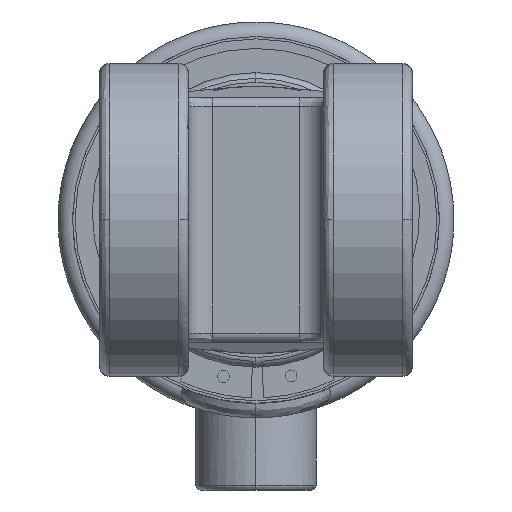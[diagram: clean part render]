
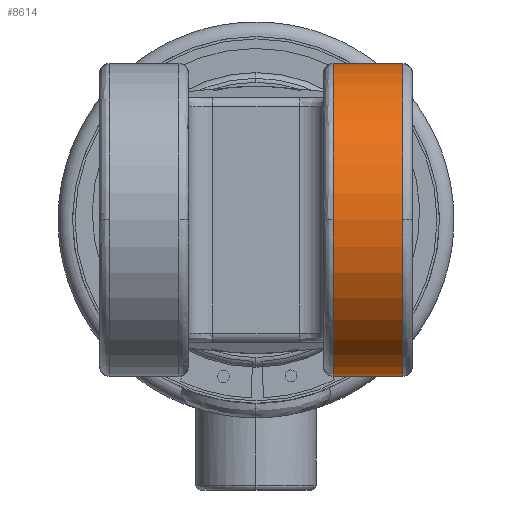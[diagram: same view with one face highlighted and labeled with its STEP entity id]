
A CAD part, left-side view. The second image highlights one B-rep face of the part: STEP entity #8614.
In plain terms, the highlighted cylindrical face has radius 32.5 mm (diameter 65 mm), a partial arc.
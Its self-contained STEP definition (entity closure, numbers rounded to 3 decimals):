
#268 = VECTOR ( 'NONE', #6964, 1000. ) ;
#978 = EDGE_LOOP ( 'NONE', ( #7352, #9136, #4256, #11193, #5971, #2052 ) ) ;
#1594 = CARTESIAN_POINT ( 'NONE',  ( 44.795, -30.5, -32.5 ) ) ;
#1852 = VERTEX_POINT ( 'NONE', #3364 ) ;
#1872 = EDGE_CURVE ( 'NONE', #5551, #2895, #5228, .T. ) ;
#2038 = EDGE_CURVE ( 'NONE', #5551, #3725, #6903, .T. ) ;
#2052 = ORIENTED_EDGE ( 'NONE', *, *, #1872, .F. ) ;
#2381 = VERTEX_POINT ( 'NONE', #6980 ) ;
#2626 = CARTESIAN_POINT ( 'NONE',  ( 44.795, -16., 0. ) ) ;
#2829 = DIRECTION ( 'NONE',  ( 0., 1., 0. ) ) ;
#2895 = VERTEX_POINT ( 'NONE', #7633 ) ;
#3302 = EDGE_CURVE ( 'NONE', #3725, #5161, #8339, .T. ) ;
#3364 = CARTESIAN_POINT ( 'NONE',  ( 77.295, -16., 0. ) ) ;
#3572 = DIRECTION ( 'NONE',  ( 1., 0., 0. ) ) ;
#3664 = DIRECTION ( 'NONE',  ( 0., 1., 0. ) ) ;
#3725 = VERTEX_POINT ( 'NONE', #6955 ) ;
#3915 = CYLINDRICAL_SURFACE ( 'NONE', #5147, 32.5 ) ;
#4256 = ORIENTED_EDGE ( 'NONE', *, *, #4915, .T. ) ;
#4281 = AXIS2_PLACEMENT_3D ( 'NONE', #8154, #2829, #8994 ) ;
#4637 = CARTESIAN_POINT ( 'NONE',  ( 44.795, -32.5, 0. ) ) ;
#4660 = CARTESIAN_POINT ( 'NONE',  ( 44.795, -30.5, 0. ) ) ;
#4915 = EDGE_CURVE ( 'NONE', #5161, #2381, #6198, .T. ) ;
#4992 = AXIS2_PLACEMENT_3D ( 'NONE', #5422, #11347, #6282 ) ;
#5147 = AXIS2_PLACEMENT_3D ( 'NONE', #4637, #3664, #7241 ) ;
#5161 = VERTEX_POINT ( 'NONE', #1594 ) ;
#5228 = LINE ( 'NONE', #11168, #268 ) ;
#5422 = CARTESIAN_POINT ( 'NONE',  ( 44.795, -30.5, 0. ) ) ;
#5551 = VERTEX_POINT ( 'NONE', #8551 ) ;
#5571 = DIRECTION ( 'NONE',  ( 0., 0., 1. ) ) ;
#5797 = CARTESIAN_POINT ( 'NONE',  ( 44.795, -32.5, -32.5 ) ) ;
#5971 = ORIENTED_EDGE ( 'NONE', *, *, #8988, .F. ) ;
#6198 = LINE ( 'NONE', #5797, #11226 ) ;
#6282 = DIRECTION ( 'NONE',  ( 0., 0., 1. ) ) ;
#6903 = CIRCLE ( 'NONE', #4992, 32.5 ) ;
#6955 = CARTESIAN_POINT ( 'NONE',  ( 77.295, -30.5, 0. ) ) ;
#6964 = DIRECTION ( 'NONE',  ( 0., 1., 0. ) ) ;
#6980 = CARTESIAN_POINT ( 'NONE',  ( 44.795, -16., -32.5 ) ) ;
#7241 = DIRECTION ( 'NONE',  ( 0., 0., 1. ) ) ;
#7352 = ORIENTED_EDGE ( 'NONE', *, *, #2038, .T. ) ;
#7532 = AXIS2_PLACEMENT_3D ( 'NONE', #2626, #8814, #3572 ) ;
#7633 = CARTESIAN_POINT ( 'NONE',  ( 44.795, -16., 32.5 ) ) ;
#8154 = CARTESIAN_POINT ( 'NONE',  ( 44.795, -16., 0. ) ) ;
#8339 = CIRCLE ( 'NONE', #9663, 32.5 ) ;
#8551 = CARTESIAN_POINT ( 'NONE',  ( 44.795, -30.5, 32.5 ) ) ;
#8614 = ADVANCED_FACE ( 'NONE', ( #10801 ), #3915, .T. ) ;
#8814 = DIRECTION ( 'NONE',  ( 0., 1., 0. ) ) ;
#8988 = EDGE_CURVE ( 'NONE', #2895, #1852, #9482, .T. ) ;
#8994 = DIRECTION ( 'NONE',  ( 1., 0., 0. ) ) ;
#9136 = ORIENTED_EDGE ( 'NONE', *, *, #3302, .T. ) ;
#9482 = CIRCLE ( 'NONE', #4281, 32.5 ) ;
#9663 = AXIS2_PLACEMENT_3D ( 'NONE', #4660, #10648, #5571 ) ;
#10545 = EDGE_CURVE ( 'NONE', #1852, #2381, #10782, .T. ) ;
#10648 = DIRECTION ( 'NONE',  ( 0., 1., 0. ) ) ;
#10782 = CIRCLE ( 'NONE', #7532, 32.5 ) ;
#10801 = FACE_OUTER_BOUND ( 'NONE', #978, .T. ) ;
#10872 = DIRECTION ( 'NONE',  ( 0., 1., 0. ) ) ;
#11168 = CARTESIAN_POINT ( 'NONE',  ( 44.795, -32.5, 32.5 ) ) ;
#11193 = ORIENTED_EDGE ( 'NONE', *, *, #10545, .F. ) ;
#11226 = VECTOR ( 'NONE', #10872, 1000. ) ;
#11347 = DIRECTION ( 'NONE',  ( 0., 1., 0. ) ) ;
